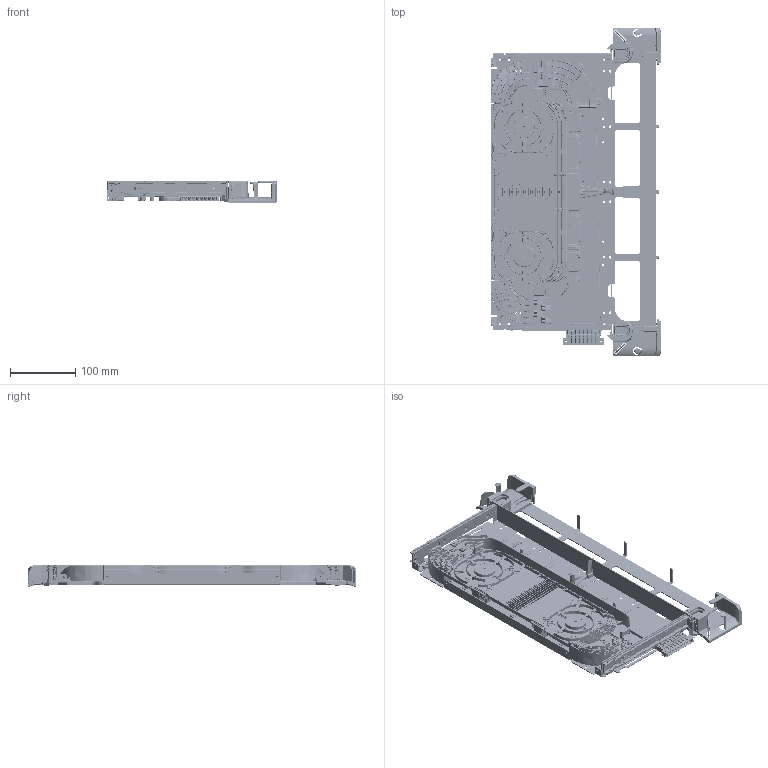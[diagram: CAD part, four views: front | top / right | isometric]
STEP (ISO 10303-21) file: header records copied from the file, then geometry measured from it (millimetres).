
FILE_DESCRIPTION(/* description */ (''),/* implementation_level */ '2;1');
FILE_NAME(/* name */ 'PRIME_FSU_HS_Left.stp',/* time_stamp */ '2019-01-16T11:52:39+02:00',/* author */ (''),/* organization */ (''),/* preprocessor_version */ 'ST-DEVELOPER v16',/* originating_system */ 'SIEMENS PLM Software NX 11.0',/* authorisation */ '');
FILE_SCHEMA (('AUTOMOTIVE_DESIGN { 1 0 10303 214 3 1 1 1 }'));
Products named in the file (1): sata05000D84ewf8
Bounding box: 261.5 x 504 x 34.1 mm (x, y, z)
Volume: 518544.7 mm3; surface area: 846379.9 mm2
Topology: 50 solids, 51 shells, 31607 faces, 84828 edges, 51331 vertices
Faces by surface type: plane 13398, cylinder 9114, bspline 4740, cone 2009, torus 1500, sphere 842, extrusion 4
Full cylindrical faces by diameter (mm): 1 x4, 1.83 x10, 2 x1, 2.2 x9, 2.5 x20, 3 x16, 3.35 x22, 3.624 x4, 3.7 x39, 4.5 x2, 4.7 x16, 4.8 x12, 5.6 x2, 6.3 x6
Entity records: 1073624 total; most frequent: CARTESIAN_POINT 312393, ORIENTED_EDGE 165150, DIRECTION 153320, EDGE_CURVE 82576, AXIS2_PLACEMENT_3D 53894, VERTEX_POINT 51160, VECTOR 45532, LINE 45528
